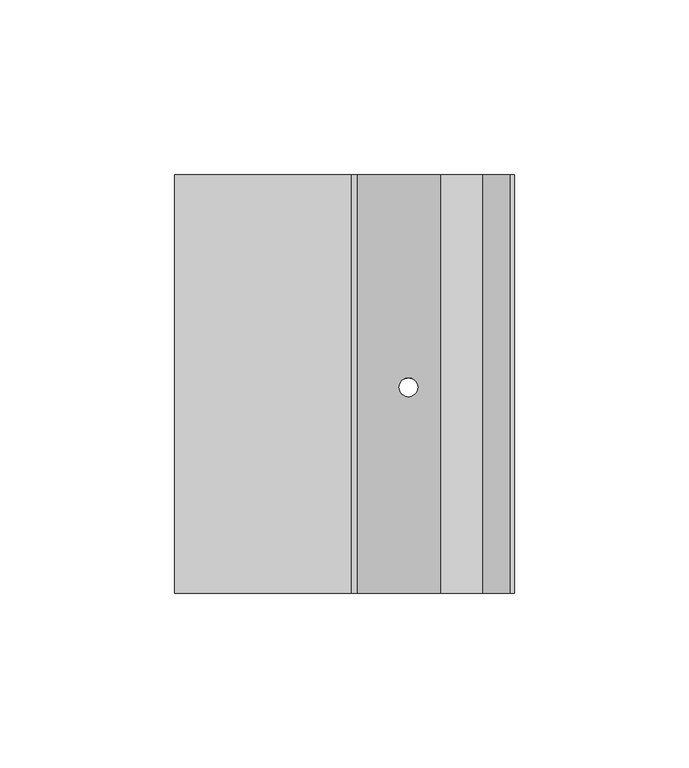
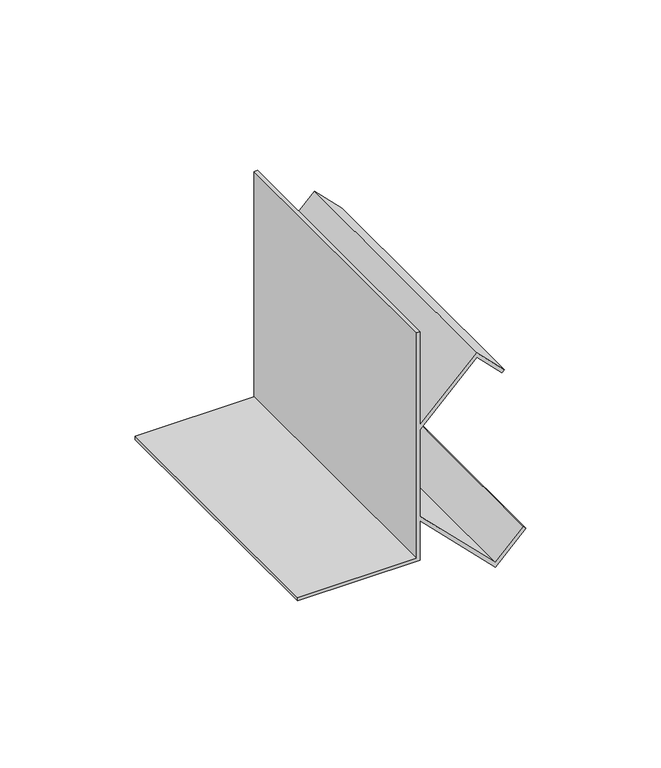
"""IFC4 building model written with IfcOpenShell, lengths in millimetres: proxy geometry, Mechanical Fittings & Accessories25 : Mechanical Fittings & Accessories."""

from ifc_helpers import new_model, si_unit, frame, origin, place, context, project, spatial, polyline, ellipse_curve, source, transform, mapped, element, save
from ifc_brep_helpers import plane_surface, revolved_surface, advanced_brep


def generic_models_1e27622a(model_context):
    return source(origin(), model_context, "Body", "AdvancedBrep", [
        advanced_brep(
        [(-13439.8639562, 5808.4963986, 4114.8), (-13490.6639562, 5808.4963986, 4114.8), (-13490.6639562, 5808.4963986, 4113.3117188), (-13438.375675, 5808.4963986, 4113.3117188), (-13438.375675, 5808.4963986, 4131.1383509), (-13406.265914, 5808.4963986, 4099.0285899), (-13393.2869427, 5808.4963986, 4112.0075612), (-13394.3393164, 5808.4963986, 4113.059935), (-13406.265914, 5808.4963986, 4101.1333374), (-13438.375675, 5808.4963986, 4133.2430984), (-13438.375675, 5808.4963986, 4172.2761118), (-13414.203414, 5808.4963986, 4196.4483729), (-13403.4674414, 5808.4963986, 4185.7124003), (-13402.4150677, 5808.4963986, 4186.7647741), (-13414.203414, 5808.4963986, 4198.5531204), (-13438.375675, 5808.4963986, 4174.3808594), (-13438.375675, 5808.4963986, 4216.4), (-13439.8639562, 5808.4963986, 4216.4), (-13439.8639562, 5928.4645457, 4114.8), (-13439.8639562, 5928.4645457, 4216.4), (-13438.375675, 5928.4645457, 4216.4), (-13438.375675, 5928.4645457, 4174.3808594), (-13414.203414, 5928.4645457, 4198.5531204), (-13402.4150677, 5928.4645457, 4186.7647741), (-13403.4674414, 5928.4645457, 4185.7124003), (-13414.203414, 5928.4645457, 4196.4483729), (-13438.375675, 5928.4645457, 4172.2761118), (-13438.375675, 5928.4645457, 4133.2430984), (-13406.265914, 5928.4645457, 4101.1333374), (-13394.3393164, 5928.4645457, 4113.059935), (-13393.2869427, 5928.4645457, 4112.0075612), (-13406.265914, 5928.4645457, 4099.0285899), (-13438.375675, 5928.4645457, 4131.1383509), (-13438.375675, 5928.4645457, 4113.3117188), (-13490.6639562, 5928.4645457, 4113.3117188), (-13490.6639562, 5928.4645457, 4114.8), (-13426.2617646, 5867.5191481, 4119.0244406), (-13420.9223978, 5867.5191481, 4113.6850737), (-13420.9223978, 5867.5191481, 4115.7898213), (-13426.2617646, 5867.5191481, 4121.1291881), (-13426.2617646, 5867.5191481, 4184.3900222), (-13420.9223978, 5867.5191481, 4189.729389), (-13420.9223978, 5867.5191481, 4191.8341365), (-13426.2617646, 5867.5191481, 4186.4947697)],
        [
            (0, 1),
            (1, 2),
            (2, 3),
            (3, 4),
            (4, 5),
            (5, 6),
            (6, 7),
            (7, 8),
            (8, 9),
            (9, 10),
            (10, 11),
            (11, 12),
            (12, 13),
            (13, 14),
            (14, 15),
            (15, 16),
            (16, 17),
            (17, 0),
            (18, 19),
            (19, 20),
            (20, 21),
            (21, 22),
            (22, 23),
            (23, 24),
            (24, 25),
            (25, 26),
            (26, 27),
            (27, 28),
            (28, 29),
            (29, 30),
            (30, 31),
            (31, 32),
            (32, 33),
            (33, 34),
            (34, 35),
            (35, 18),
            (0, 18),
            (35, 1),
            (34, 2),
            (33, 3),
            (32, 4),
            (31, 5),
            (36, 37, ellipse_curve(frame((-13423.5920812, 5867.5191481, 4116.3547571), z_axis=(0.7071067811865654, 0.0, 0.7071067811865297), x_axis=(-0.7071067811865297, 0.0, 0.7071067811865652)), 3.7755025, 2.6696834)),
            (37, 36, ellipse_curve(frame((-13423.5920812, 5867.5191481, 4116.3547571), z_axis=(0.7071067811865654, 0.0, 0.7071067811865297), x_axis=(-0.7071067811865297, 0.0, 0.7071067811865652)), 3.7755025, 2.6696834)),
            (30, 6),
            (29, 7),
            (28, 8),
            (27, 9),
            (38, 39, ellipse_curve(frame((-13423.5920812, 5867.5191481, 4118.4595047), z_axis=(-0.7071067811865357, 0.0, -0.7071067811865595), x_axis=(-0.7071067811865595, 0.0, 0.7071067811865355)), 3.7755025, 2.6696834)),
            (39, 38, ellipse_curve(frame((-13423.5920812, 5867.5191481, 4118.4595047), z_axis=(-0.7071067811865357, 0.0, -0.7071067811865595), x_axis=(-0.7071067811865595, 0.0, 0.7071067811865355)), 3.7755025, 2.6696834)),
            (26, 10),
            (25, 11),
            (40, 41, ellipse_curve(frame((-13423.5920812, 5867.5191481, 4187.0597056), z_axis=(-0.7071067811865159, 0.0, 0.7071067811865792), x_axis=(0.7071067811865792, 0.0, 0.7071067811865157)), 3.7755025, 2.6696834)),
            (41, 40, ellipse_curve(frame((-13423.5920812, 5867.5191481, 4187.0597056), z_axis=(-0.7071067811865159, 0.0, 0.7071067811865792), x_axis=(0.7071067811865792, 0.0, 0.7071067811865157)), 3.7755025, 2.6696834)),
            (24, 12),
            (23, 13),
            (22, 14),
            (21, 15),
            (42, 43, ellipse_curve(frame((-13423.5920812, 5867.5191481, 4189.1644531), z_axis=(0.7071067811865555, 0.0, -0.7071067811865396), x_axis=(0.7071067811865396, 0.0, 0.7071067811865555)), 3.7755025, 2.6696834)),
            (43, 42, ellipse_curve(frame((-13423.5920812, 5867.5191481, 4189.1644531), z_axis=(0.7071067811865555, 0.0, -0.7071067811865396), x_axis=(0.7071067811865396, 0.0, 0.7071067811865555)), 3.7755025, 2.6696834)),
            (20, 16),
            (19, 17),
            (36, 39),
            (38, 37),
            (40, 43),
            (42, 41),
        ],
        [
            plane_surface(frame((-13490.6639562, 5808.4963986, 4114.8), z_axis=(0.0, -1.0, 0.0), x_axis=(-1.0, 0.0, 0.0))),
            plane_surface(frame((-13490.6639562, 5928.4645457, 4114.8), z_axis=(0.0, 1.0, 0.0), x_axis=(1.0, 0.0, 0.0))),
            plane_surface(frame((-13439.8639562, 5808.4963986, 4114.8), z_axis=(0.0, 0.0, 1.0), x_axis=(0.0, 1.0, 0.0))),
            plane_surface(frame((-13490.6639562, 5808.4963986, 4114.8), z_axis=(-1.0, 0.0, 0.0), x_axis=(0.0, 1.0, 0.0))),
            plane_surface(frame((-13490.6639562, 5808.4963986, 4113.3117188), z_axis=(0.0, 0.0, -1.0), x_axis=(0.0, 1.0, 0.0))),
            plane_surface(frame((-13438.375675, 5808.4963986, 4113.3117188), z_axis=(1.0, 0.0, 0.0), x_axis=(0.0, 1.0, 0.0))),
            plane_surface(frame((-13438.375675, 5808.4963986, 4131.1383509), z_axis=(-0.7071067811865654, 0.0, -0.7071067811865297), x_axis=(0.0, 1.0, 0.0))),
            plane_surface(frame((-13406.265914, 5808.4963986, 4099.0285899), z_axis=(0.7071067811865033, 0.0, -0.7071067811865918), x_axis=(0.0, 1.0, 0.0))),
            plane_surface(frame((-13393.2869427, 5808.4963986, 4112.0075612), z_axis=(0.7071067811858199, 0.0, 0.7071067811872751), x_axis=(0.0, 1.0, 0.0))),
            plane_surface(frame((-13394.3393164, 5808.4963986, 4113.059935), z_axis=(-0.7071067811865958, 0.0, 0.7071067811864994), x_axis=(0.0, 1.0, 0.0))),
            plane_surface(frame((-13406.265914, 5808.4963986, 4101.1333374), z_axis=(0.7071067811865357, 0.0, 0.7071067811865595), x_axis=(0.0, 1.0, 0.0))),
            plane_surface(frame((-13438.375675, 5808.4963986, 4133.2430984), z_axis=(1.0, 0.0, 0.0), x_axis=(0.0, 1.0, 0.0))),
            plane_surface(frame((-13438.375675, 5808.4963986, 4172.2761118), z_axis=(0.7071067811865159, 0.0, -0.7071067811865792), x_axis=(0.0, 1.0, 0.0))),
            plane_surface(frame((-13414.203414, 5808.4963986, 4196.4483729), z_axis=(-0.7071067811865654, 0.0, -0.7071067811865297), x_axis=(0.0, 1.0, 0.0))),
            plane_surface(frame((-13403.4674414, 5808.4963986, 4185.7124003), z_axis=(0.7071067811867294, 0.0, -0.7071067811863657), x_axis=(0.0, 1.0, 0.0))),
            plane_surface(frame((-13402.4150677, 5808.4963986, 4186.7647741), z_axis=(0.7071067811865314, 0.0, 0.7071067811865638), x_axis=(0.0, 1.0, 0.0))),
            plane_surface(frame((-13414.203414, 5808.4963986, 4198.5531204), z_axis=(-0.7071067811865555, 0.0, 0.7071067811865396), x_axis=(0.0, 1.0, 0.0))),
            plane_surface(frame((-13438.375675, 5808.4963986, 4174.3808594), z_axis=(1.0, 0.0, 0.0), x_axis=(0.0, 1.0, 0.0))),
            plane_surface(frame((-13438.375675, 5808.4963986, 4216.4), z_axis=(0.0, 0.0, 1.0), x_axis=(0.0, 1.0, 0.0))),
            plane_surface(frame((-13439.8639562, 5808.4963986, 4216.4), z_axis=(-1.0, 0.0, 0.0), x_axis=(0.0, 1.0, 0.0))),
            revolved_surface(polyline([(-13420.9223978, 5867.5191481, 4121.129188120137), (-13420.9223978, 5867.5191481, 4113.685073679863)]), (-13423.5920812, 5867.5191481, 4097.2034211), (0.0, 0.0, 1.0)),
            revolved_surface(polyline([(-13420.9223978, 5867.5191481, 4191.834136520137), (-13420.9223978, 5867.5191481, 4184.390022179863)]), (-13423.5920812, 5867.5191481, 4097.2034211), (0.0, 0.0, 1.0)),
        ],
        [
            (0, [[1, 2, 3, 4, 5, 6, 7, 8, 9, 10, 11, 12, 13, 14, 15, 16, 17, 18]]),
            (1, [[19, 20, 21, 22, 23, 24, 25, 26, 27, 28, 29, 30, 31, 32, 33, 34, 35, 36]]),
            (2, [[-1, 37, -36, 38]]),
            (3, [[-2, -38, -35, 39]]),
            (4, [[-3, -39, -34, 40]]),
            (5, [[-4, -40, -33, 41]]),
            (6, [[-5, -41, -32, 42], [43, 44]]),
            (7, [[-6, -42, -31, 45]]),
            (8, [[-7, -45, -30, 46]]),
            (9, [[-8, -46, -29, 47]]),
            (10, [[-9, -47, -28, 48], [49, 50]]),
            (11, [[-10, -48, -27, 51]]),
            (12, [[-11, -51, -26, 52], [53, 54]]),
            (13, [[-12, -52, -25, 55]]),
            (14, [[-13, -55, -24, 56]]),
            (15, [[-14, -56, -23, 57]]),
            (16, [[-15, -57, -22, 58], [59, 60]]),
            (17, [[-16, -58, -21, 61]]),
            (18, [[-17, -61, -20, 62]]),
            (19, [[-18, -62, -19, -37]]),
            (20, [[63, -49, 64, -43]]),
            (21, [[65, -59, 66, -53]]),
            (20, [[-63, -44, -64, -50]]),
            (21, [[-65, -54, -66, -60]]),
        ],
    ),
    ])


if __name__ == "__main__":
    model = new_model("IFC4")
    model_context = context("Model", 3, world=origin())
    ifc_project = project(units=[si_unit("LENGTHUNIT", "METRE", prefix="MILLI")], contexts=[model_context])
    site = spatial("IfcSite", under=ifc_project)
    building = spatial("IfcBuilding", under=site)
    placement = place(None, origin())
    generic_models_shape = generic_models_1e27622a(model_context)
    element("IfcBuildingElementProxy", 1, Name="Mechanical Fittings & Accessories25 : Mechanical Fittings & Accessories", ObjectType="Mechanical Fittings & Accessories25 : Mechanical Fittings & Accessories", at=placement, inside=building, context=model_context, shape_type="MappedRepresentation", body=[
        mapped(generic_models_shape, transform((0.0, 0.0, 0.0), x_axis=(1.0, 0.0, 0.0), y_axis=(0.0, 1.0, 0.0), z_axis=(0.0, 0.0, 1.0))),
    ])
    save(model, "model.ifc")
